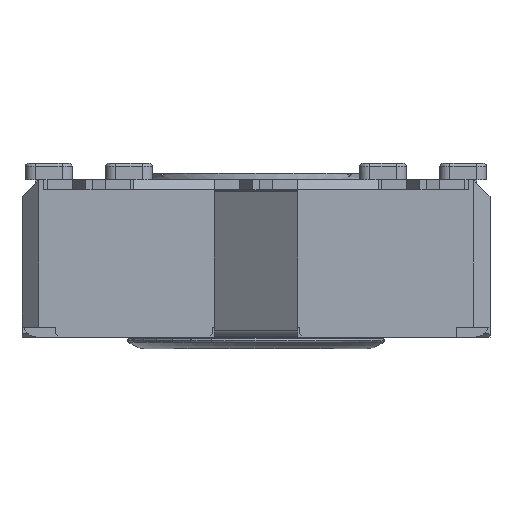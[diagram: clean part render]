
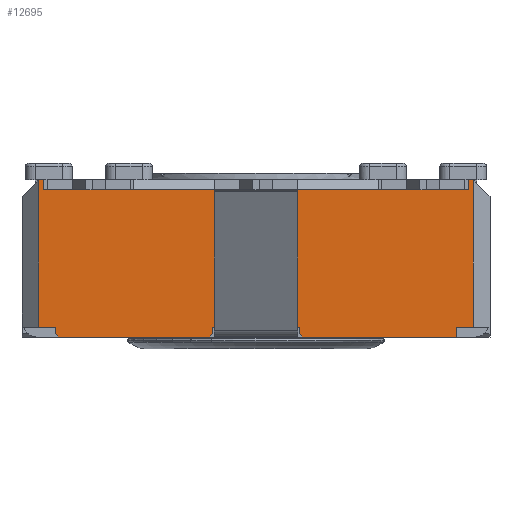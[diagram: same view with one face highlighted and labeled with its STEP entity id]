
A CAD part, front view. The second image highlights one B-rep face of the part: STEP entity #12695.
In plain terms, the highlighted planar face has unit normal (0, -1, 0).
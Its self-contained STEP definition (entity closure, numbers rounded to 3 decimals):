
#375=LINE('',#17725,#1844);
#377=LINE('',#17730,#1846);
#444=LINE('',#17882,#1913);
#482=LINE('',#17983,#1951);
#487=LINE('',#17993,#1956);
#549=LINE('',#18124,#2018);
#556=LINE('',#18141,#2025);
#685=LINE('',#18545,#2154);
#700=LINE('',#18574,#2169);
#768=LINE('',#18726,#2237);
#776=LINE('',#18739,#2245);
#892=LINE('',#19113,#2361);
#1099=LINE('',#19637,#2568);
#1104=LINE('',#19646,#2573);
#1107=LINE('',#19651,#2576);
#1194=LINE('',#19928,#2663);
#1202=LINE('',#19946,#2671);
#1208=LINE('',#19954,#2677);
#1209=LINE('',#19957,#2678);
#1210=LINE('',#19959,#2679);
#1211=LINE('',#19961,#2680);
#1212=LINE('',#19962,#2681);
#1213=LINE('',#19963,#2682);
#1214=LINE('',#19964,#2683);
#1215=LINE('',#19965,#2684);
#1216=LINE('',#19966,#2685);
#1217=LINE('',#19967,#2686);
#1844=VECTOR('',#14203,10.);
#1846=VECTOR('',#14207,10.);
#1913=VECTOR('',#14318,10.);
#1951=VECTOR('',#14394,10.);
#1956=VECTOR('',#14399,10.);
#2018=VECTOR('',#14511,10.);
#2025=VECTOR('',#14524,10.);
#2154=VECTOR('',#14949,10.);
#2169=VECTOR('',#14978,10.);
#2237=VECTOR('',#15128,10.);
#2245=VECTOR('',#15138,10.);
#2361=VECTOR('',#15406,10.);
#2568=VECTOR('',#15755,10.);
#2573=VECTOR('',#15760,10.);
#2576=VECTOR('',#15765,10.);
#2663=VECTOR('',#15990,10.);
#2671=VECTOR('',#16002,10.);
#2677=VECTOR('',#16012,10.);
#2678=VECTOR('',#16015,10.);
#2679=VECTOR('',#16016,10.);
#2680=VECTOR('',#16017,10.);
#2681=VECTOR('',#16018,10.);
#2682=VECTOR('',#16019,10.);
#2683=VECTOR('',#16020,10.);
#2684=VECTOR('',#16021,10.);
#2685=VECTOR('',#16022,10.);
#2686=VECTOR('',#16023,10.);
#3581=FACE_OUTER_BOUND('',#4260,.T.);
#4260=EDGE_LOOP('',(#9907,#9908,#9909,#9910,#9911,#9912,#9913,#9914,#9915,
#9916,#9917,#9918,#9919,#9920,#9921,#9922,#9923,#9924,#9925,#9926,#9927,
#9928,#9929,#9930,#9931,#9932,#9933));
#4955=VERTEX_POINT('',#17713);
#4959=VERTEX_POINT('',#17723);
#4960=VERTEX_POINT('',#17727);
#4961=VERTEX_POINT('',#17729);
#4974=VERTEX_POINT('',#17761);
#5024=VERTEX_POINT('',#17881);
#5068=VERTEX_POINT('',#17982);
#5072=VERTEX_POINT('',#17990);
#5073=VERTEX_POINT('',#17992);
#5117=VERTEX_POINT('',#18122);
#5124=VERTEX_POINT('',#18140);
#5250=VERTEX_POINT('',#18542);
#5251=VERTEX_POINT('',#18544);
#5257=VERTEX_POINT('',#18571);
#5258=VERTEX_POINT('',#18573);
#5301=VERTEX_POINT('',#18725);
#5305=VERTEX_POINT('',#18737);
#5426=VERTEX_POINT('',#19109);
#5577=VERTEX_POINT('',#19636);
#5581=VERTEX_POINT('',#19644);
#5634=VERTEX_POINT('',#19926);
#5635=VERTEX_POINT('',#19927);
#5642=VERTEX_POINT('',#19944);
#5643=VERTEX_POINT('',#19945);
#5644=VERTEX_POINT('',#19956);
#5645=VERTEX_POINT('',#19958);
#5646=VERTEX_POINT('',#19960);
#6181=EDGE_CURVE('',#4955,#4959,#375,.T.);
#6183=EDGE_CURVE('',#4961,#4960,#377,.T.);
#6259=EDGE_CURVE('',#5024,#4974,#444,.T.);
#6309=EDGE_CURVE('',#5068,#5024,#482,.T.);
#6314=EDGE_CURVE('',#5073,#5072,#487,.T.);
#6381=EDGE_CURVE('',#4960,#5117,#549,.T.);
#6389=EDGE_CURVE('',#5124,#4961,#556,.T.);
#6592=EDGE_CURVE('',#5251,#5250,#685,.T.);
#6607=EDGE_CURVE('',#5258,#5257,#700,.T.);
#6684=EDGE_CURVE('',#5301,#4955,#768,.T.);
#6692=EDGE_CURVE('',#4959,#5305,#776,.T.);
#6847=EDGE_CURVE('',#5258,#5426,#892,.T.);
#7075=EDGE_CURVE('',#5577,#5426,#1099,.T.);
#7080=EDGE_CURVE('',#4974,#5581,#1104,.T.);
#7083=EDGE_CURVE('',#5073,#5250,#1107,.T.);
#7189=EDGE_CURVE('',#5634,#5635,#1194,.T.);
#7197=EDGE_CURVE('',#5642,#5643,#1202,.T.);
#7203=EDGE_CURVE('',#5068,#5634,#1208,.T.);
#7204=EDGE_CURVE('',#5581,#5644,#1209,.T.);
#7205=EDGE_CURVE('',#5645,#5644,#1210,.T.);
#7206=EDGE_CURVE('',#5645,#5646,#1211,.T.);
#7207=EDGE_CURVE('',#5646,#5577,#1212,.T.);
#7208=EDGE_CURVE('',#5257,#5301,#1213,.T.);
#7209=EDGE_CURVE('',#5124,#5305,#1214,.T.);
#7210=EDGE_CURVE('',#5117,#5251,#1215,.T.);
#7211=EDGE_CURVE('',#5072,#5643,#1216,.T.);
#7212=EDGE_CURVE('',#5642,#5635,#1217,.T.);
#9907=ORIENTED_EDGE('',*,*,#7189,.F.);
#9908=ORIENTED_EDGE('',*,*,#7203,.F.);
#9909=ORIENTED_EDGE('',*,*,#6309,.T.);
#9910=ORIENTED_EDGE('',*,*,#6259,.T.);
#9911=ORIENTED_EDGE('',*,*,#7080,.T.);
#9912=ORIENTED_EDGE('',*,*,#7204,.T.);
#9913=ORIENTED_EDGE('',*,*,#7205,.F.);
#9914=ORIENTED_EDGE('',*,*,#7206,.T.);
#9915=ORIENTED_EDGE('',*,*,#7207,.T.);
#9916=ORIENTED_EDGE('',*,*,#7075,.T.);
#9917=ORIENTED_EDGE('',*,*,#6847,.F.);
#9918=ORIENTED_EDGE('',*,*,#6607,.T.);
#9919=ORIENTED_EDGE('',*,*,#7208,.T.);
#9920=ORIENTED_EDGE('',*,*,#6684,.T.);
#9921=ORIENTED_EDGE('',*,*,#6181,.T.);
#9922=ORIENTED_EDGE('',*,*,#6692,.T.);
#9923=ORIENTED_EDGE('',*,*,#7209,.F.);
#9924=ORIENTED_EDGE('',*,*,#6389,.T.);
#9925=ORIENTED_EDGE('',*,*,#6183,.T.);
#9926=ORIENTED_EDGE('',*,*,#6381,.T.);
#9927=ORIENTED_EDGE('',*,*,#7210,.T.);
#9928=ORIENTED_EDGE('',*,*,#6592,.T.);
#9929=ORIENTED_EDGE('',*,*,#7083,.F.);
#9930=ORIENTED_EDGE('',*,*,#6314,.T.);
#9931=ORIENTED_EDGE('',*,*,#7211,.T.);
#9932=ORIENTED_EDGE('',*,*,#7197,.F.);
#9933=ORIENTED_EDGE('',*,*,#7212,.T.);
#11897=PLANE('',#13547);
#12695=ADVANCED_FACE('',(#3581),#11897,.T.);
#13547=AXIS2_PLACEMENT_3D('',#19955,#16013,#16014);
#14203=DIRECTION('',(-1.,0.,0.));
#14207=DIRECTION('',(-1.,0.,0.));
#14318=DIRECTION('',(1.,0.,0.));
#14394=DIRECTION('',(1.,0.,0.));
#14399=DIRECTION('',(1.,0.,0.));
#14511=DIRECTION('',(-1.,0.,0.));
#14524=DIRECTION('',(-1.,0.,0.));
#14949=DIRECTION('',(-1.,0.,0.));
#14978=DIRECTION('',(-1.,0.,0.));
#15128=DIRECTION('',(-1.,0.,0.));
#15138=DIRECTION('',(-1.,0.,0.));
#15406=DIRECTION('',(0.,0.,-1.));
#15755=DIRECTION('',(1.,0.,0.));
#15760=DIRECTION('',(1.,0.,0.));
#15765=DIRECTION('',(0.,0.,1.));
#15990=DIRECTION('',(-0.707,0.,-0.707));
#16002=DIRECTION('',(-0.707,0.,0.707));
#16012=DIRECTION('',(0.,0.,-1.));
#16013=DIRECTION('center_axis',(0.,-1.,0.));
#16014=DIRECTION('ref_axis',(0.,0.,-1.));
#16015=DIRECTION('',(0.,0.,-1.));
#16016=DIRECTION('',(-0.707,0.,0.707));
#16017=DIRECTION('',(1.,0.,0.));
#16018=DIRECTION('',(0.,0.,1.));
#16019=DIRECTION('',(0.,0.,-1.));
#16020=DIRECTION('',(1.,0.,0.));
#16021=DIRECTION('',(0.,0.,1.));
#16022=DIRECTION('',(0.,0.,-1.));
#16023=DIRECTION('',(1.,0.,0.));
#17713=CARTESIAN_POINT('',(-1.217,-9.898,4.1));
#17723=CARTESIAN_POINT('',(-3.717,-9.898,4.1));
#17725=CARTESIAN_POINT('',(-1.862,-9.898,4.1));
#17727=CARTESIAN_POINT('',(-13.717,-9.898,4.1));
#17729=CARTESIAN_POINT('',(-11.217,-9.898,4.1));
#17730=CARTESIAN_POINT('',(-3.944,-9.898,4.1));
#17761=CARTESIAN_POINT('',(-6.217,-9.898,0.));
#17881=CARTESIAN_POINT('',(-8.717,-9.898,0.));
#17882=CARTESIAN_POINT('',(-14.467,-9.898,0.));
#17982=CARTESIAN_POINT('',(-8.767,-9.898,0.));
#17983=CARTESIAN_POINT('',(-14.467,-9.898,0.));
#17990=CARTESIAN_POINT('',(-13.467,-9.898,0.));
#17992=CARTESIAN_POINT('',(-13.967,-9.898,0.));
#17993=CARTESIAN_POINT('',(-7.245,-9.898,0.));
#18122=CARTESIAN_POINT('',(-13.817,-9.898,4.1));
#18124=CARTESIAN_POINT('',(-3.944,-9.898,4.1));
#18140=CARTESIAN_POINT('',(-11.117,-9.898,4.1));
#18141=CARTESIAN_POINT('',(-3.944,-9.898,4.1));
#18542=CARTESIAN_POINT('',(-13.967,-9.898,4.4));
#18544=CARTESIAN_POINT('',(-13.817,-9.898,4.4));
#18545=CARTESIAN_POINT('',(-14.467,-9.898,4.4));
#18571=CARTESIAN_POINT('',(-1.117,-9.898,4.4));
#18573=CARTESIAN_POINT('',(-0.967,-9.898,4.4));
#18574=CARTESIAN_POINT('',(-14.467,-9.898,4.4));
#18725=CARTESIAN_POINT('',(-1.117,-9.898,4.1));
#18726=CARTESIAN_POINT('',(-1.862,-9.898,4.1));
#18737=CARTESIAN_POINT('',(-3.817,-9.898,4.1));
#18739=CARTESIAN_POINT('',(-1.862,-9.898,4.1));
#19109=CARTESIAN_POINT('',(-0.967,-9.898,0.));
#19113=CARTESIAN_POINT('',(-0.967,-9.898,0.));
#19636=CARTESIAN_POINT('',(-1.467,-9.898,0.));
#19637=CARTESIAN_POINT('',(-0.646,-9.898,0.));
#19644=CARTESIAN_POINT('',(-6.167,-9.898,0.));
#19646=CARTESIAN_POINT('',(-14.467,-9.898,0.));
#19651=CARTESIAN_POINT('',(-13.967,-9.898,0.));
#19926=CARTESIAN_POINT('',(-8.767,-9.898,-0.2));
#19927=CARTESIAN_POINT('',(-8.867,-9.898,-0.3));
#19928=CARTESIAN_POINT('',(-6.667,-9.898,1.9));
#19944=CARTESIAN_POINT('',(-13.367,-9.898,-0.3));
#19945=CARTESIAN_POINT('',(-13.467,-9.898,-0.2));
#19946=CARTESIAN_POINT('',(-10.242,-9.898,-3.425));
#19954=CARTESIAN_POINT('',(-8.767,-9.898,0.));
#19955=CARTESIAN_POINT('Origin',(-0.467,-9.898,0.));
#19956=CARTESIAN_POINT('',(-6.167,-9.898,-0.2));
#19957=CARTESIAN_POINT('',(-6.167,-9.898,0.));
#19958=CARTESIAN_POINT('',(-6.067,-9.898,-0.3));
#19959=CARTESIAN_POINT('',(-4.767,-9.898,-1.6));
#19960=CARTESIAN_POINT('',(-1.467,-9.898,-0.3));
#19961=CARTESIAN_POINT('',(-0.467,-9.898,-0.3));
#19962=CARTESIAN_POINT('',(-1.467,-9.898,-0.15));
#19963=CARTESIAN_POINT('',(-1.117,-9.898,2.2));
#19964=CARTESIAN_POINT('',(-3.967,-9.898,4.1));
#19965=CARTESIAN_POINT('',(-13.817,-9.898,2.2));
#19966=CARTESIAN_POINT('',(-13.467,-9.898,-0.15));
#19967=CARTESIAN_POINT('',(-0.467,-9.898,-0.3));
